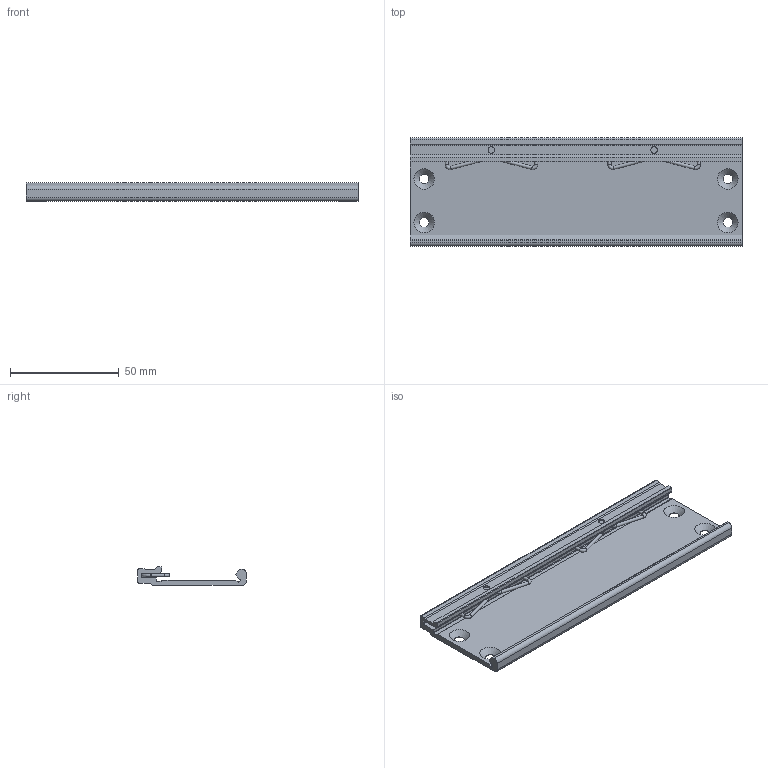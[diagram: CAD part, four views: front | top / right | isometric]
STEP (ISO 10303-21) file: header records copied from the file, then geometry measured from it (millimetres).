
FILE_DESCRIPTION (( 'STEP AP214' ), '1' );
FILE_NAME ('TEQ300WIR CLIP.STEP', '2019-08-05T07:15:06', ( 'user' ), ( '' ), 'SwSTEP 2.0', 'SolidWorks 2016', '' );
FILE_SCHEMA (( 'AUTOMOTIVE_DESIGN' ));
Length unit declared in the file: millimetre
Products named in the file (2): TEQ300WIR  CLIP
Bounding box: 152.4 x 50 x 8.7 mm (x, y, z)
Volume: 25805.4 mm3; surface area: 23064.1 mm2
Topology: 3 solids, 3 shells, 77 faces, 185 edges, 116 vertices
Faces by surface type: cylinder 33, plane 30, torus 10, cone 4
Full cylindrical faces by diameter (mm): 1.5 x12, 3 x2, 4.5 x4
Entity records: 2963 total; most frequent: DIRECTION 379, CARTESIAN_POINT 344, ORIENTED_EDGE 302, EDGE_CURVE 151, AXIS2_PLACEMENT_3D 149, EDGE_LOOP 119, VERTEX_POINT 114, FACE_OUTER_BOUND 105
